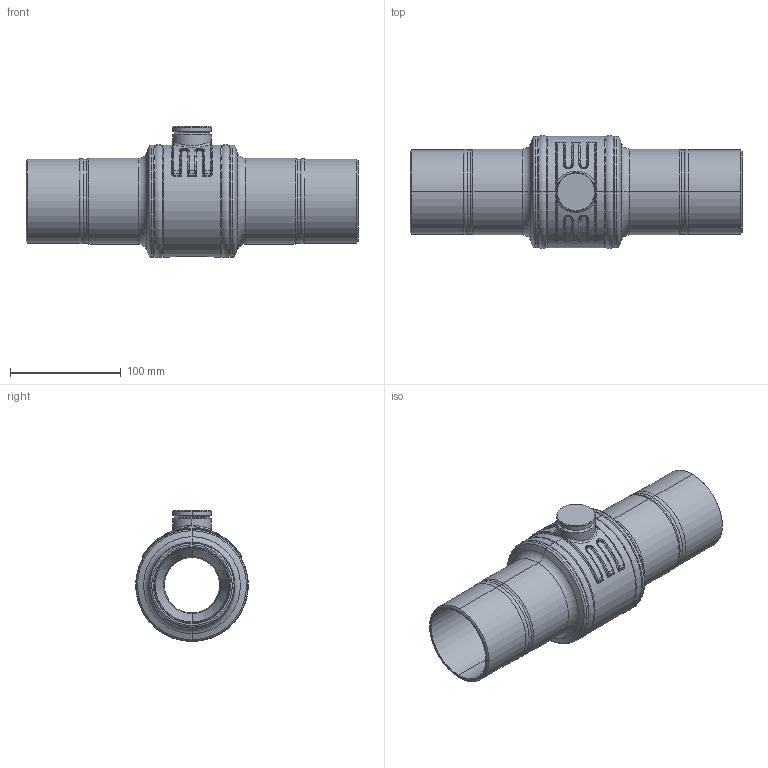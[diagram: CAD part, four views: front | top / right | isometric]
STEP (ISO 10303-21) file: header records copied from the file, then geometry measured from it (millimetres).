
FILE_DESCRIPTION((''),'2;1');
FILE_NAME('KHMO-BH-R-ISKT-065R050P040','2025-02-11T17:03:20',('jeitlers'),('KLINGER'),'CREO PARAMETRIC BY PTC INC, 2023014','CREO PARAMETRIC BY PTC INC, 2023014','');
FILE_SCHEMA(('CONFIG_CONTROL_DESIGN'));
Length unit declared in the file: millimetre
Products named in the file (1): KHMO-BH-R-ISKT-065R050P040
Bounding box: 300 x 101.91 x 118.45 mm (x, y, z)
Volume: 651642.1 mm3; surface area: 215038 mm2
Topology: 4 solids, 4 shells, 474 faces, 1021 edges, 575 vertices
Faces by surface type: cylinder 131, torus 124, plane 75, bspline 72, cone 70, sphere 2
Entity records: 21263 total; most frequent: CARTESIAN_POINT 11153, DIRECTION 2254, ORIENTED_EDGE 2038, EDGE_CURVE 1019, AXIS2_PLACEMENT_3D 995, CIRCLE 593, VERTEX_POINT 575, EDGE_LOOP 508
